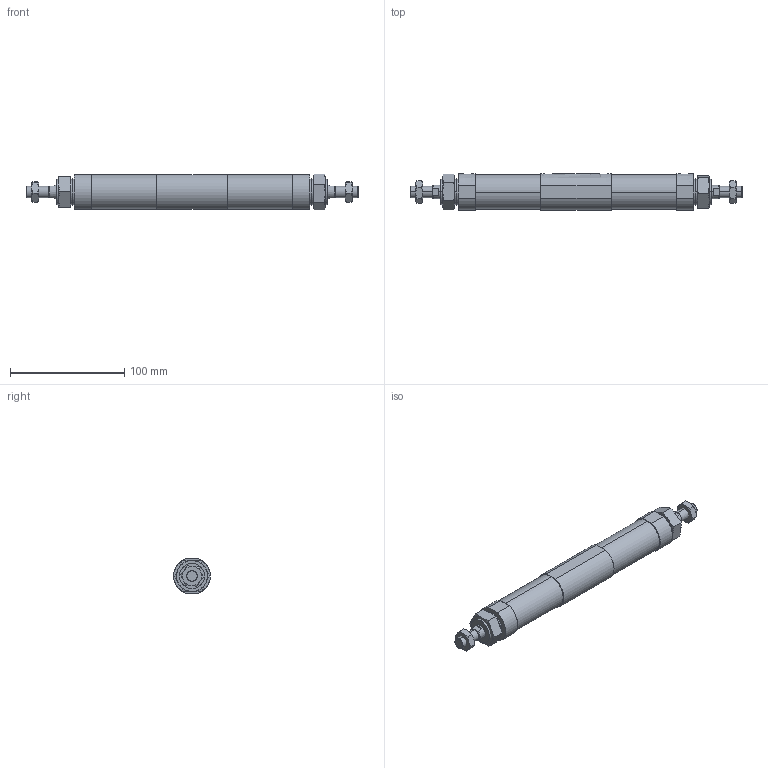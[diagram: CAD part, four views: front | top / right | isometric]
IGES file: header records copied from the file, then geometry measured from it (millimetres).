
Start section: SolidWorks IGES file using analytic representation for surfaces
Global section: file name: C:\Users\Toshiba\Desktop\JGD7-25-25-25-N.IGS; native system: SolidWorks 2014; preprocessor: SolidWorks 2014; author: Toshiba; date: 160419.152301; units: millimetre
Bounding box: 290 x 32 x 31.02 mm (x, y, z)
Surface area: 39636.4 mm2 (no closed solid volume)
Topology: 0 solids, 0 shells, 172 faces, 3084 edges, 3076 vertices
Faces by surface type: bspline 114, revolution 58
